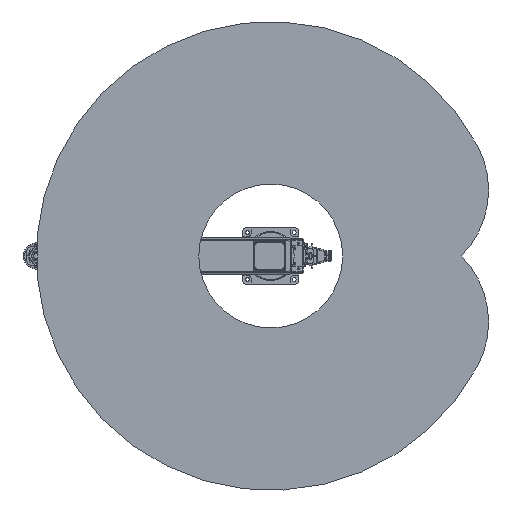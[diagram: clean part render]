
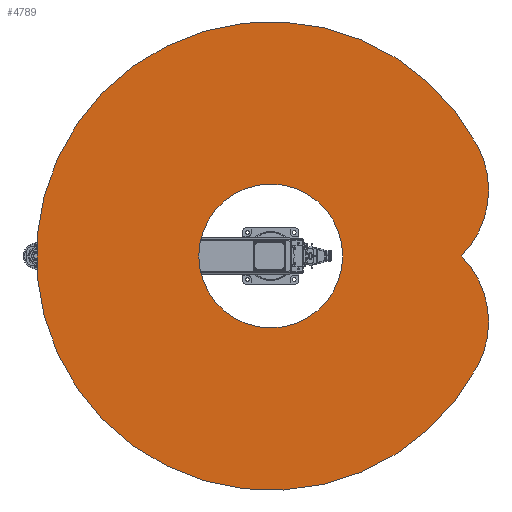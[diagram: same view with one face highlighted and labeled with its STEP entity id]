
A CAD part, front view. The second image highlights one B-rep face of the part: STEP entity #4789.
In plain terms, the highlighted planar face has unit normal (0, -1, 0).
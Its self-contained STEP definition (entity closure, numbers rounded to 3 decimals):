
#4789 = ADVANCED_FACE( '', ( #11387, #11388 ), #11389, .F. );
#11387 = FACE_BOUND( '', #20372, .T. );
#11388 = FACE_OUTER_BOUND( '', #20373, .T. );
#11389 = PLANE( '', #20374 );
#20372 = EDGE_LOOP( '', ( #34652 ) );
#20373 = EDGE_LOOP( '', ( #34653, #34654, #34655 ) );
#20374 = AXIS2_PLACEMENT_3D( '', #34656, #34657, #34658 );
#34652 = ORIENTED_EDGE( '', *, *, #50767, .T. );
#34653 = ORIENTED_EDGE( '', *, *, #51337, .F. );
#34654 = ORIENTED_EDGE( '', *, *, #51074, .F. );
#34655 = ORIENTED_EDGE( '', *, *, #51338, .F. );
#34656 = CARTESIAN_POINT( '', ( 140.842, 0., 264.885 ) );
#34657 = DIRECTION( '', ( 0., 1., 0. ) );
#34658 = DIRECTION( '', ( 0., 0., 1. ) );
#50767 = EDGE_CURVE( '', #61505, #61505, #61506, .T. );
#51074 = EDGE_CURVE( '', #61985, #61986, #61987, .T. );
#51337 = EDGE_CURVE( '', #61986, #62360, #62361, .T. );
#51338 = EDGE_CURVE( '', #62360, #61985, #62362, .T. );
#61505 = VERTEX_POINT( '', #78339 );
#61506 = CIRCLE( '', #78340, 307. );
#61985 = VERTEX_POINT( '', #79363 );
#61986 = VERTEX_POINT( '', #79364 );
#61987 = CIRCLE( '', #79365, 400. );
#62360 = VERTEX_POINT( '', #79935 );
#62361 = CIRCLE( '', #79936, 400. );
#62362 = CIRCLE( '', #79937, 1000. );
#78339 = CARTESIAN_POINT( '', ( 307., 0., 0. ) );
#78340 = AXIS2_PLACEMENT_3D( '', #91511, #91512, #91513 );
#79363 = CARTESIAN_POINT( '', ( -468.809, 0., 883.299 ) );
#79364 = CARTESIAN_POINT( '', ( 0., 0., 813.767 ) );
#79365 = AXIS2_PLACEMENT_3D( '', #91841, #91842, #91843 );
#79935 = CARTESIAN_POINT( '', ( 468.809, 0., 883.299 ) );
#79936 = AXIS2_PLACEMENT_3D( '', #92142, #92143, #92144 );
#79937 = AXIS2_PLACEMENT_3D( '', #92145, #92146, #92147 );
#91511 = CARTESIAN_POINT( '', ( 0., 0., 0. ) );
#91512 = DIRECTION( '', ( 0., 1., 0. ) );
#91513 = DIRECTION( '', ( 1., 0., 0. ) );
#91841 = CARTESIAN_POINT( '', ( -281.683, 0., 529.769 ) );
#91842 = DIRECTION( '', ( 0., 1., 0. ) );
#91843 = DIRECTION( '', ( 1., 0., 0. ) );
#92142 = CARTESIAN_POINT( '', ( 281.683, 0., 529.769 ) );
#92143 = DIRECTION( '', ( 0., 1., 0. ) );
#92144 = DIRECTION( '', ( 1., 0., 0. ) );
#92145 = CARTESIAN_POINT( '', ( 0., 0., 0. ) );
#92146 = DIRECTION( '', ( 0., 1., 0. ) );
#92147 = DIRECTION( '', ( 1., 0., 0. ) );
